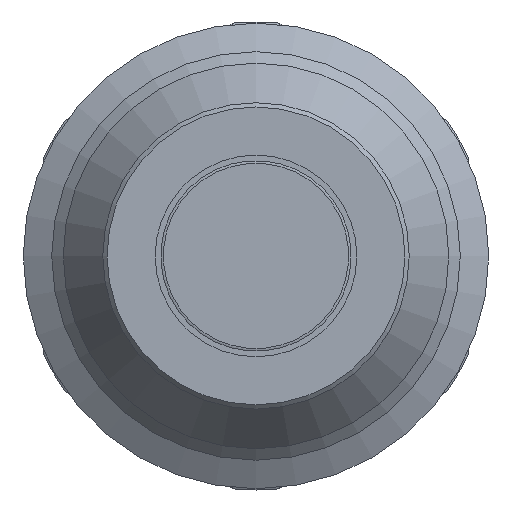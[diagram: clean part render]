
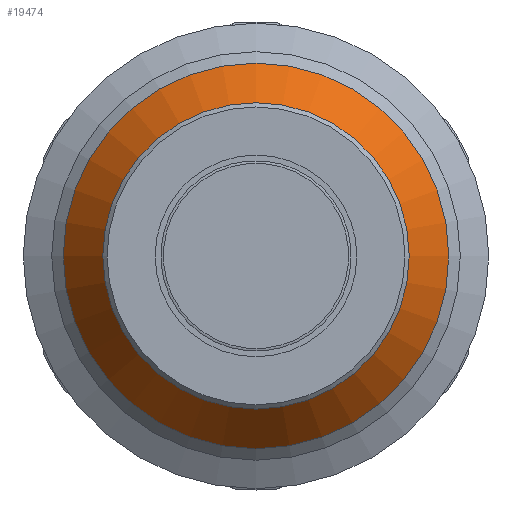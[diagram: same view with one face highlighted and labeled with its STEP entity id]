
A CAD part, front view. The second image highlights one B-rep face of the part: STEP entity #19474.
In plain terms, the highlighted conical face has half-angle 36.001 degrees and reference radius 20.325 mm.
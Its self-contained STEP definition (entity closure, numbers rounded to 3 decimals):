
#761=CONICAL_SURFACE('',#20562,20.325,0.628);
#1098=FACE_OUTER_BOUND('',#2151,.T.);
#2151=EDGE_LOOP('',(#12387,#12388,#12389,#12390));
#4672=CIRCLE('',#20561,22.65);
#4673=CIRCLE('',#20563,18.);
#5019=LINE('',#24081,#6191);
#6191=VECTOR('',#21341,20.325);
#7384=VERTEX_POINT('',#24076);
#7385=VERTEX_POINT('',#24080);
#9381=EDGE_CURVE('',#7384,#7384,#4672,.T.);
#9382=EDGE_CURVE('',#7384,#7385,#5019,.T.);
#9383=EDGE_CURVE('',#7385,#7385,#4673,.T.);
#12387=ORIENTED_EDGE('',*,*,#9381,.F.);
#12388=ORIENTED_EDGE('',*,*,#9382,.T.);
#12389=ORIENTED_EDGE('',*,*,#9383,.T.);
#12390=ORIENTED_EDGE('',*,*,#9382,.F.);
#19474=ADVANCED_FACE('',(#1098),#761,.T.);
#20561=AXIS2_PLACEMENT_3D('',#24078,#21337,#21338);
#20562=AXIS2_PLACEMENT_3D('',#24079,#21339,#21340);
#20563=AXIS2_PLACEMENT_3D('',#24082,#21342,#21343);
#21337=DIRECTION('center_axis',(0.,1.,0.));
#21338=DIRECTION('ref_axis',(1.,0.,0.));
#21339=DIRECTION('center_axis',(0.,1.,0.));
#21340=DIRECTION('ref_axis',(-1.,0.,0.));
#21341=DIRECTION('',(-0.588,-0.809,0.));
#21342=DIRECTION('center_axis',(0.,1.,0.));
#21343=DIRECTION('ref_axis',(1.,0.,0.));
#24076=CARTESIAN_POINT('',(22.65,-4.85,0.));
#24078=CARTESIAN_POINT('Origin',(0.,-4.85,0.));
#24079=CARTESIAN_POINT('Origin',(0.,-8.05,0.));
#24080=CARTESIAN_POINT('',(18.,-11.25,0.));
#24081=CARTESIAN_POINT('',(20.325,-8.05,0.));
#24082=CARTESIAN_POINT('Origin',(0.,-11.25,0.));
